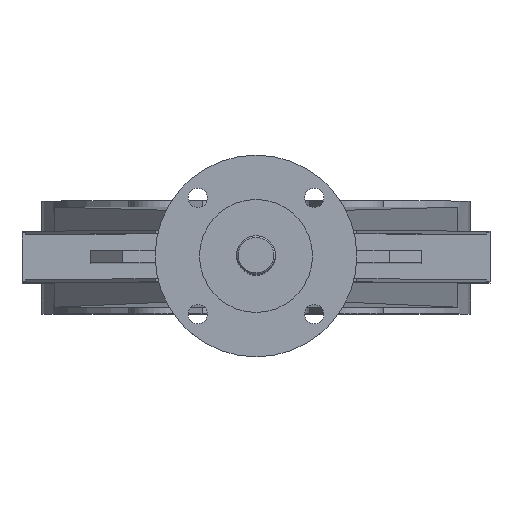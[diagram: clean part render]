
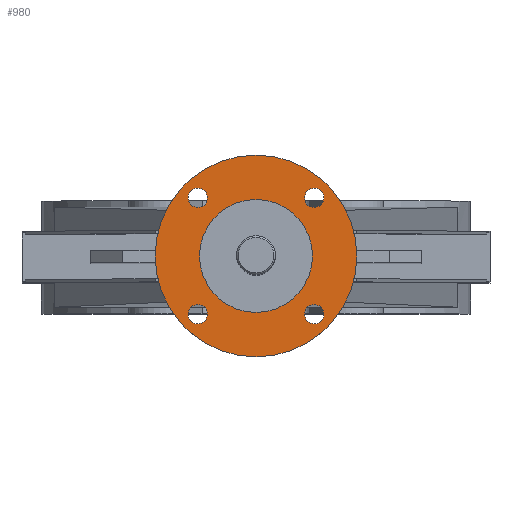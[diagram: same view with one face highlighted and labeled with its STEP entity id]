
A CAD part, top view. The second image highlights one B-rep face of the part: STEP entity #980.
In plain terms, the highlighted planar face has unit normal (0, 0, 1).
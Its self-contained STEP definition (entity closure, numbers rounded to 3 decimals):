
#980=ADVANCED_FACE('',(#2249,#2251,#2253,#2255,#2257,#2259),#2261,.T.);
#2249=FACE_BOUND('',#2250,.T.);
#2250=EDGE_LOOP('',(#3303));
#2251=FACE_BOUND('',#2252,.T.);
#2252=EDGE_LOOP('',(#3304));
#2253=FACE_BOUND('',#2254,.T.);
#2254=EDGE_LOOP('',(#3305));
#2255=FACE_BOUND('',#2256,.T.);
#2256=EDGE_LOOP('',(#3306));
#2257=FACE_BOUND('',#2258,.T.);
#2258=EDGE_LOOP('',(#3307));
#2259=FACE_BOUND('',#2260,.T.);
#2260=EDGE_LOOP('',(#3308));
#2261=PLANE('',#2262);
#2262=AXIS2_PLACEMENT_3D('',#2263,#2264,#2265);
#2263=CARTESIAN_POINT('',(0.,0.,588.));
#2264=DIRECTION('',(0.,0.,1.));
#2265=DIRECTION('',(-1.,0.,0.));
#3303=ORIENTED_EDGE('',*,*,#3727,.T.);
#3304=ORIENTED_EDGE('',*,*,#3728,.T.);
#3305=ORIENTED_EDGE('',*,*,#3729,.T.);
#3306=ORIENTED_EDGE('',*,*,#3730,.T.);
#3307=ORIENTED_EDGE('',*,*,#3855,.T.);
#3308=ORIENTED_EDGE('',*,*,#3731,.T.);
#3727=EDGE_CURVE('',#4309,#4309,#4310,.T.);
#3728=EDGE_CURVE('',#4311,#4311,#4312,.F.);
#3729=EDGE_CURVE('',#4313,#4313,#4314,.F.);
#3730=EDGE_CURVE('',#4315,#4315,#4316,.F.);
#3731=EDGE_CURVE('',#4317,#4317,#4318,.F.);
#3855=EDGE_CURVE('',#4532,#4532,#4533,.F.);
#4309=VERTEX_POINT('',#5537);
#4310=CIRCLE('',#5538,62.5);
#4311=VERTEX_POINT('',#5542);
#4312=CIRCLE('',#5543,6.);
#4313=VERTEX_POINT('',#5547);
#4314=CIRCLE('',#5548,6.);
#4315=VERTEX_POINT('',#5552);
#4316=CIRCLE('',#5553,6.);
#4317=VERTEX_POINT('',#5557);
#4318=CIRCLE('',#5558,6.);
#4532=VERTEX_POINT('',#6078);
#4533=CIRCLE('',#6079,35.);
#5537=CARTESIAN_POINT('',(-62.5,0.,588.));
#5538=AXIS2_PLACEMENT_3D('',#5539,#5540,#5541);
#5539=CARTESIAN_POINT('',(0.,0.,588.));
#5540=DIRECTION('',(0.,0.,1.));
#5541=DIRECTION('',(-1.,0.,0.));
#5542=CARTESIAN_POINT('',(-42.062,-36.062,588.));
#5543=AXIS2_PLACEMENT_3D('',#5544,#5545,#5546);
#5544=CARTESIAN_POINT('',(-36.062,-36.062,588.));
#5545=DIRECTION('',(0.,0.,1.));
#5546=DIRECTION('',(-1.,0.,0.));
#5547=CARTESIAN_POINT('',(36.062,-42.062,588.));
#5548=AXIS2_PLACEMENT_3D('',#5549,#5550,#5551);
#5549=CARTESIAN_POINT('',(36.062,-36.062,588.));
#5550=DIRECTION('',(0.,0.,1.));
#5551=DIRECTION('',(0.,-1.,0.));
#5552=CARTESIAN_POINT('',(42.062,36.062,588.));
#5553=AXIS2_PLACEMENT_3D('',#5554,#5555,#5556);
#5554=CARTESIAN_POINT('',(36.062,36.062,588.));
#5555=DIRECTION('',(0.,0.,1.));
#5556=DIRECTION('',(1.,0.,-0.));
#5557=CARTESIAN_POINT('',(-36.062,42.062,588.));
#5558=AXIS2_PLACEMENT_3D('',#5559,#5560,#5561);
#5559=CARTESIAN_POINT('',(-36.062,36.062,588.));
#5560=DIRECTION('',(0.,0.,1.));
#5561=DIRECTION('',(0.,1.,0.));
#6078=CARTESIAN_POINT('',(0.,35.,588.));
#6079=AXIS2_PLACEMENT_3D('',#6080,#6081,#6082);
#6080=CARTESIAN_POINT('',(0.,0.,588.));
#6081=DIRECTION('',(0.,0.,1.));
#6082=DIRECTION('',(0.,1.,0.));
